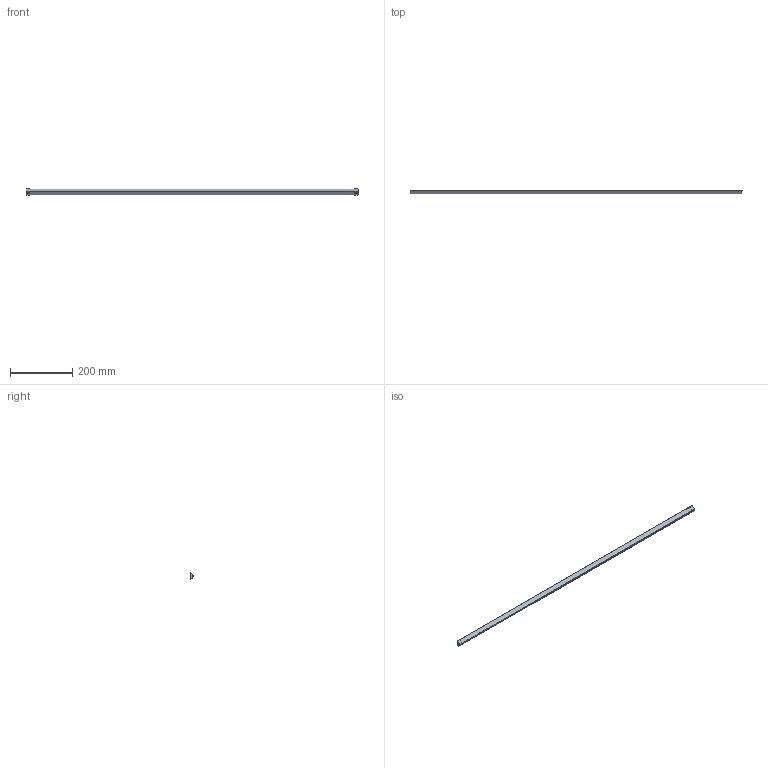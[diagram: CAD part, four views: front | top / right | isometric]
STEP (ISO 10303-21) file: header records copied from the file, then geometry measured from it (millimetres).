
FILE_DESCRIPTION(/* description */ (''),/* implementation_level */ '2;1');
FILE_NAME(/* name */ '6112511_Profil_DerbyII_sldprt.stp',/* time_stamp */ '2019-06-11T08:35:54+02:00',/* author */ (''),/* organization */ (''),/* preprocessor_version */ 'ST-DEVELOPER v16.7',/* originating_system */ 'SIEMENS PLM Software NX 12.0',/* authorisation */ '');
FILE_SCHEMA (('AUTOMOTIVE_DESIGN { 1 0 10303 214 3 1 1 1 }'));
Length unit declared in the file: millimetre
Products named in the file (1): p.sc242CC721x3gd
Bounding box: 1070 x 12.83 x 19.36 mm (x, y, z)
Volume: 167247.2 mm3; surface area: 57796.6 mm2
Topology: 1 solids, 1 shells, 74 faces, 216 edges, 142 vertices
Faces by surface type: plane 36, cylinder 28, bspline 8, cone 2
Full cylindrical faces by diameter (mm): 3.4 x2
Entity records: 2801 total; most frequent: CARTESIAN_POINT 867, ORIENTED_EDGE 416, DIRECTION 370, EDGE_CURVE 208, VERTEX_POINT 140, AXIS2_PLACEMENT_3D 133, LINE 104, VECTOR 104
